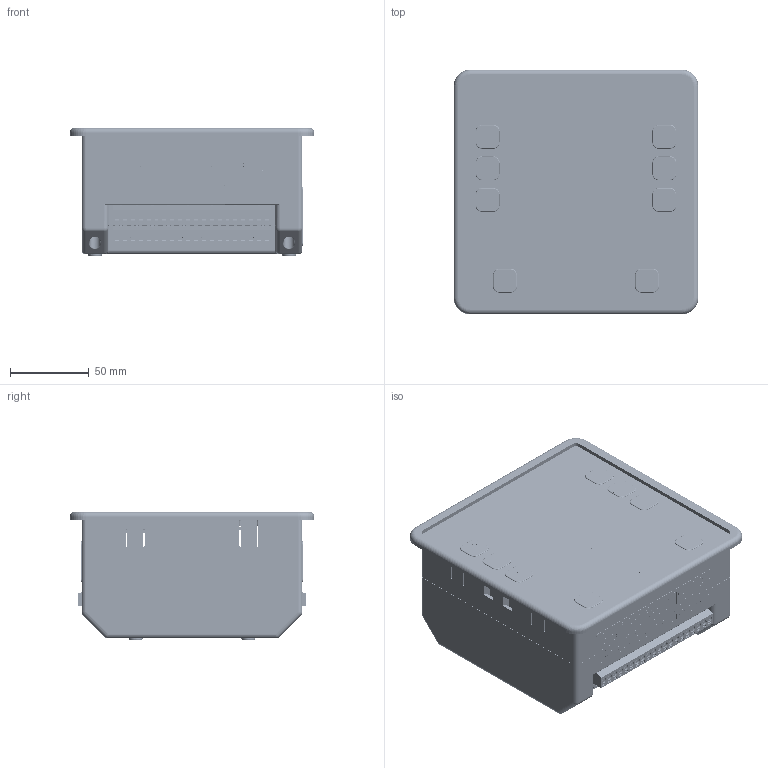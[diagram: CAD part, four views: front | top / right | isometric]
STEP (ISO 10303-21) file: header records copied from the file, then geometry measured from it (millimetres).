
FILE_DESCRIPTION (( 'STEP AP214' ), '1' );
FILE_NAME ('ﾁﾀﾂﾐ OptiSave H-232-ﾓ3 .STEP', '2019-07-01T13:37:58', ( '' ), ( '' ), 'SwSTEP 2.0', 'SolidWorks 2018', '' );
FILE_SCHEMA (( 'AUTOMOTIVE_DESIGN' ));
Length unit declared in the file: millimetre
Products named in the file (1): ﾁﾀﾂﾐ OptiSave H-232-ﾓ3 
Bounding box: 155 x 155 x 81.2 mm (x, y, z)
Volume: 368966.4 mm3; surface area: 391154.5 mm2
Topology: 132 solids, 133 shells, 23871 faces, 62582 edges, 40182 vertices
Faces by surface type: plane 14542, bspline 4268, cylinder 3186, torus 789, cone 638, sphere 448
Entity records: 1163887 total; most frequent: CARTESIAN_POINT 337133, ORIENTED_EDGE 124368, DIRECTION 101673, EDGE_CURVE 62184, VECTOR 44027, LINE 44027, VERTEX_POINT 40171, AXIS2_PLACEMENT_3D 28823
